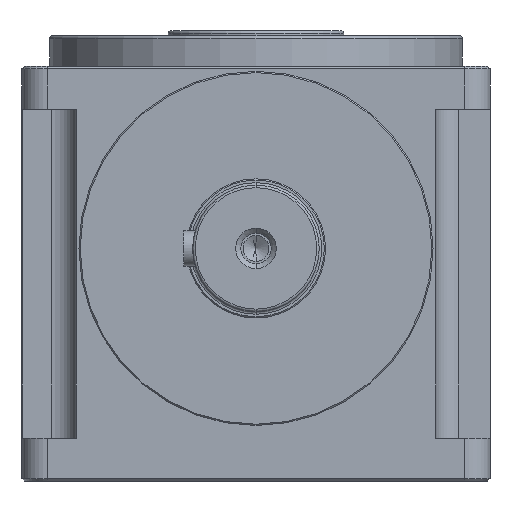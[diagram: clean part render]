
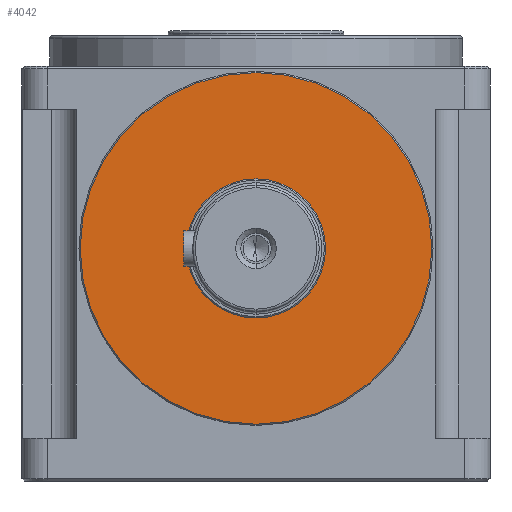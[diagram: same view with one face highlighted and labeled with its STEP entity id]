
A CAD part, front view. The second image highlights one B-rep face of the part: STEP entity #4042.
In plain terms, the highlighted planar face has unit normal (0, -1, 0).
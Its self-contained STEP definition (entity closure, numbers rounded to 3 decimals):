
#114 = ORIENTED_EDGE ( 'NONE', *, *, #182, .T. ) ;
#182 = EDGE_CURVE ( 'NONE', #7739, #1710, #4643, .T. ) ;
#450 = CARTESIAN_POINT ( 'NONE',  ( 0., -163., 0. ) ) ;
#569 = AXIS2_PLACEMENT_3D ( 'NONE', #5002, #7966, #1499 ) ;
#1203 = CARTESIAN_POINT ( 'NONE',  ( 0., -163., -69.5 ) ) ;
#1365 = DIRECTION ( 'NONE',  ( 0., 0., -1. ) ) ;
#1497 = DIRECTION ( 'NONE',  ( 0., -1., 0. ) ) ;
#1499 = DIRECTION ( 'NONE',  ( 0., 0., -1. ) ) ;
#1537 = DIRECTION ( 'NONE',  ( 0., 0., -1. ) ) ;
#1710 = VERTEX_POINT ( 'NONE', #1203 ) ;
#1955 = ORIENTED_EDGE ( 'NONE', *, *, #9269, .F. ) ;
#2050 = EDGE_LOOP ( 'NONE', ( #1955, #4881 ) ) ;
#2400 = AXIS2_PLACEMENT_3D ( 'NONE', #5785, #8655, #4226 ) ;
#2487 = EDGE_CURVE ( 'NONE', #1710, #7739, #6287, .T. ) ;
#2615 = DIRECTION ( 'NONE',  ( 0., 0., -1. ) ) ;
#3320 = DIRECTION ( 'NONE',  ( 0., -1., 0. ) ) ;
#3663 = CIRCLE ( 'NONE', #8940, 27.5 ) ;
#4042 = ADVANCED_FACE ( 'NONE', ( #4466, #7870 ), #6505, .T. ) ;
#4226 = DIRECTION ( 'NONE',  ( 0., 0., -1. ) ) ;
#4466 = FACE_BOUND ( 'NONE', #2050, .T. ) ;
#4620 = CARTESIAN_POINT ( 'NONE',  ( 0., -163., 27.5 ) ) ;
#4643 = CIRCLE ( 'NONE', #569, 69.5 ) ;
#4796 = VERTEX_POINT ( 'NONE', #6262 ) ;
#4806 = ORIENTED_EDGE ( 'NONE', *, *, #2487, .T. ) ;
#4881 = ORIENTED_EDGE ( 'NONE', *, *, #6657, .F. ) ;
#5002 = CARTESIAN_POINT ( 'NONE',  ( 0., -163., 0. ) ) ;
#5514 = CARTESIAN_POINT ( 'NONE',  ( 0., -163., 69.5 ) ) ;
#5785 = CARTESIAN_POINT ( 'NONE',  ( 0., -163., 0. ) ) ;
#6105 = EDGE_LOOP ( 'NONE', ( #114, #4806 ) ) ;
#6262 = CARTESIAN_POINT ( 'NONE',  ( 0., -163., -27.5 ) ) ;
#6287 = CIRCLE ( 'NONE', #6445, 69.5 ) ;
#6445 = AXIS2_PLACEMENT_3D ( 'NONE', #6988, #7828, #1365 ) ;
#6505 = PLANE ( 'NONE',  #7008 ) ;
#6657 = EDGE_CURVE ( 'NONE', #4796, #7528, #3663, .T. ) ;
#6988 = CARTESIAN_POINT ( 'NONE',  ( 0., -163., 0. ) ) ;
#7008 = AXIS2_PLACEMENT_3D ( 'NONE', #8006, #1497, #1537 ) ;
#7528 = VERTEX_POINT ( 'NONE', #4620 ) ;
#7739 = VERTEX_POINT ( 'NONE', #5514 ) ;
#7828 = DIRECTION ( 'NONE',  ( 0., -1., 0. ) ) ;
#7870 = FACE_OUTER_BOUND ( 'NONE', #6105, .T. ) ;
#7966 = DIRECTION ( 'NONE',  ( 0., -1., 0. ) ) ;
#7981 = CIRCLE ( 'NONE', #2400, 27.5 ) ;
#8006 = CARTESIAN_POINT ( 'NONE',  ( 0., -163., 0. ) ) ;
#8655 = DIRECTION ( 'NONE',  ( 0., -1., 0. ) ) ;
#8940 = AXIS2_PLACEMENT_3D ( 'NONE', #450, #3320, #2615 ) ;
#9269 = EDGE_CURVE ( 'NONE', #7528, #4796, #7981, .T. ) ;
